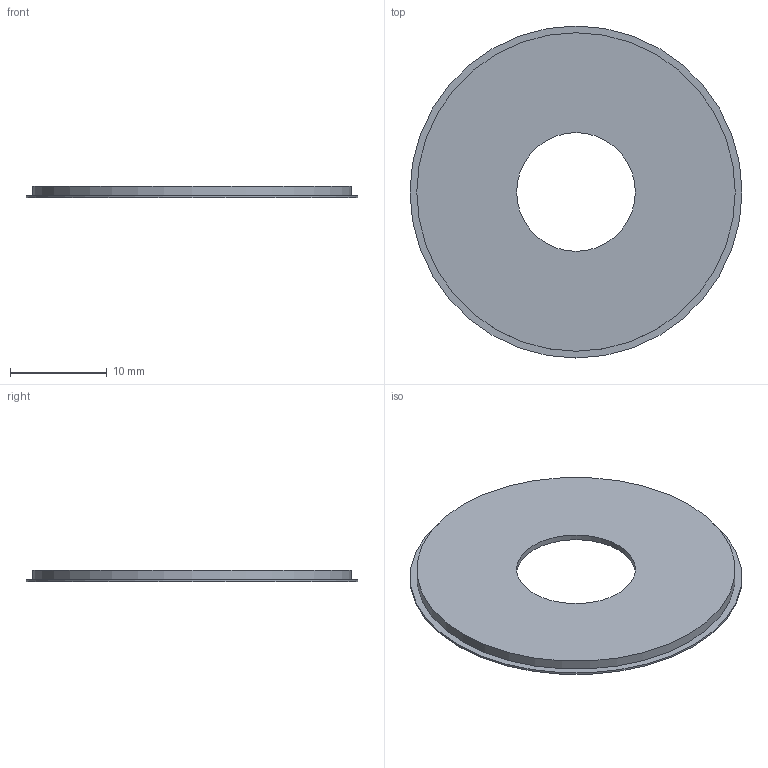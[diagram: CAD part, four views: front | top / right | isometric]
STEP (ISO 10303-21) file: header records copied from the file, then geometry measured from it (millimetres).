
FILE_DESCRIPTION(('FreeCAD Model'),'2;1');
FILE_NAME('Open CASCADE Shape Model','2026-09-22T00:47:39',('FreeCAD'),( 'FreeCAD'),'Open CASCADE STEP processor 7.8','FreeCAD','Unknown');
FILE_SCHEMA(('AUTOMOTIVE_DESIGN { 1 0 10303 214 1 1 1 1 }'));
Length unit declared in the file: millimetre
Products named in the file (1): Open CASCADE STEP translator 7.8 3
Bounding box: 34.4 x 34.4 x 1.2 mm (x, y, z)
Volume: 502.1 mm3; surface area: 1835.6 mm2
Topology: 1 solids, 1 shells, 16 faces, 24 edges, 16 vertices
Faces by surface type: cylinder 8, plane 8
Full cylindrical faces by diameter (mm): 1.7 x4, 12.3 x1, 31.6 x1, 33 x1, 34.4 x1
Entity records: 376 total; most frequent: DIRECTION 72, CARTESIAN_POINT 59, ORIENTED_EDGE 48, AXIS2_PLACEMENT_3D 33, FACE_BOUND 24, EDGE_LOOP 24, EDGE_CURVE 24, ADVANCED_FACE 16
